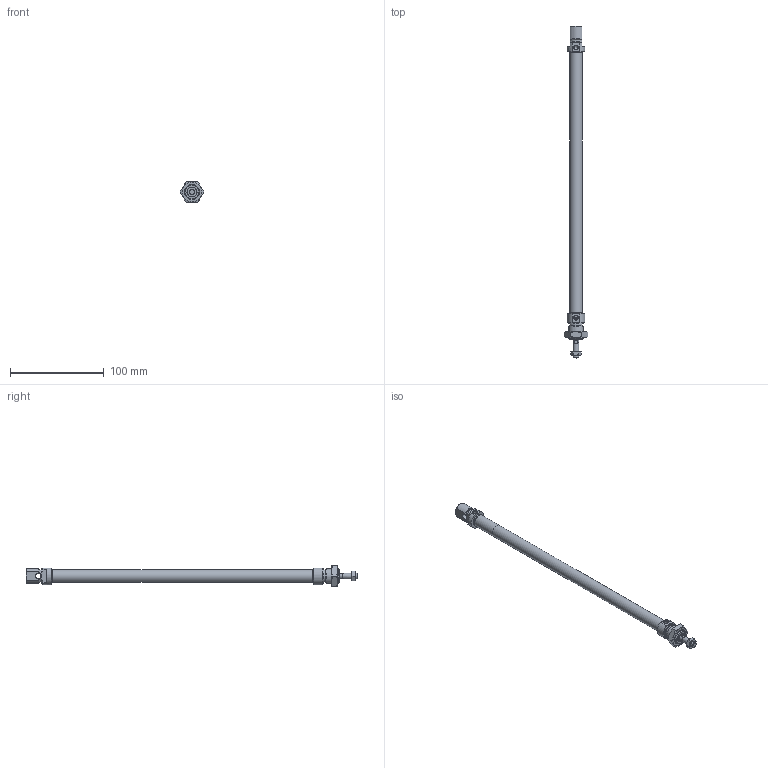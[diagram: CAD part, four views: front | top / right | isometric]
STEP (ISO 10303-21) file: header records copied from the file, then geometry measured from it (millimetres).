
FILE_DESCRIPTION(/* description */ ('Unknown'),/* implementation_level */ '2;1');
FILE_NAME(/* name */ 'RIM 12_250',/* time_stamp */ '2024-08-26T13:32:55+02:00',/* author */ ('Unknown'),/* organization */ ('HAFNER Pneumatika Kft.'),/* preprocessor_version */ 'ST-DEVELOPER v18.102',/* originating_system */ 'Solid Edge',/* authorisation */ 'Unknown');
FILE_SCHEMA (('AUTOMOTIVE_DESIGN {1 0 10303 214 3 1 1}'));
Length unit declared in the file: millimetre
Products named in the file (7): RIM 12_250; Profilrohr; Kolbenstange; Kit_1; Kit_2; Mutter_1; Mutter_2
Assembly tree (6 placements, depth 2):
  RIM 12_250
    Profilrohr
    Kolbenstange
    Kit_1
    Kit_2
    Mutter_1
    Mutter_2
Bounding box: 25.4 x 354 x 22 mm (x, y, z)
Volume: 30963.9 mm3; surface area: 35439.2 mm2
Topology: 6 solids, 6 shells, 135 faces, 287 edges, 179 vertices
Faces by surface type: plane 55, cone 40, cylinder 33, torus 7
Full cylindrical faces by diameter (mm): 4.11 x1, 4.134 x3, 4.917 x1, 6 x3, 6.5 x1, 7.1 x1, 9 x1, 9.1 x1, 11.1 x1, 11.2 x1, 12 x2, 13.2 x2, 13.27 x1, 13.7 x1, 14.376 x1, 16 x2
Entity records: 4304 total; most frequent: CARTESIAN_POINT 642, DIRECTION 576, ORIENTED_EDGE 446, AXIS2_PLACEMENT_3D 257, EDGE_CURVE 223, FACE_BOUND 213, EDGE_LOOP 212, VERTEX_POINT 170
